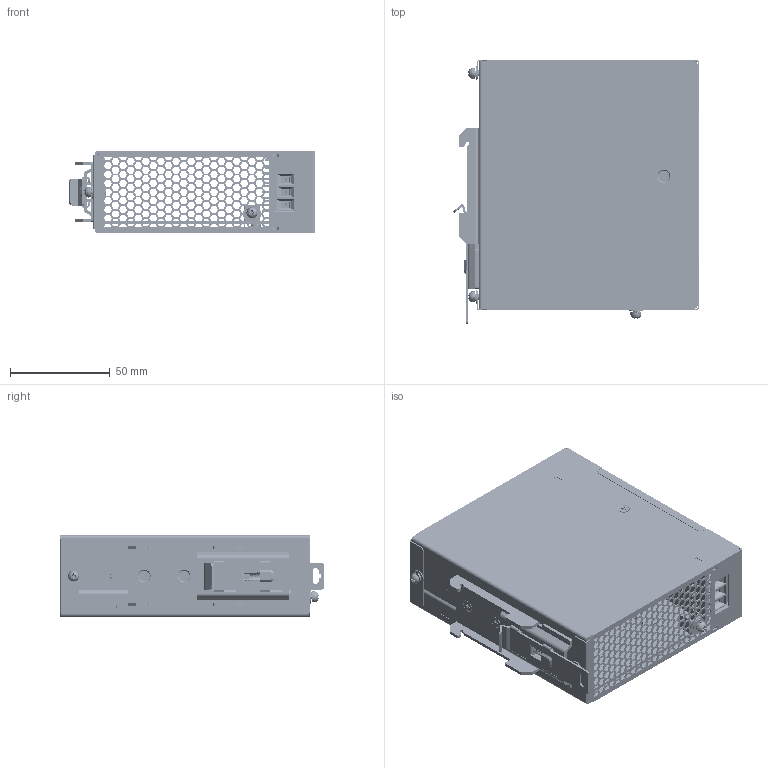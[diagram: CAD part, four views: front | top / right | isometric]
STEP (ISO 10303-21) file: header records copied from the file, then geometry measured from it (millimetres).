
FILE_DESCRIPTION( ('This file contains a STEP AP42 implementation' ,'as created by ZW3D STEP Interface translator.') ,'2;1' );
FILE_NAME( 'GW-DR240S.stp' ,'24 7 9.17 8 4', (''), ('ZWCAD Software Co.'), 'Version 1.0', 'ZW3D to STEP translator', '' );
FILE_SCHEMA(('AUTOMOTIVE_DESIGN { 1 0 10303 214 1 1 1 1 }'));
Length unit declared in the file: millimetre
Products named in the file (43): 0; 240W; CASE-B-01; CASE-B; SCREW_5_1_1; CASE-T; 縐諶; 錨璃001; 錨璃002; 粟銅; CASE-B-2; TEN; TAM11-M3-L6; TAM11-M3-L6-003; TAM11-M3-L6-002; TAM11-M3-L6-001; TAM11-M3-L61; TAM11-M3-L62; TAP02-M3-L6; ema_5-xx-6_35-00_asm; 221400003; ASM0001_ASM; 550100061; 330400045; ASM0001_ASM1; ASM0001_ASM2; 660300111; ema_5-04-6_35-00_asm; ASM0001_ASM3; ASM0001_ASM4; ASM0001_ASM5; ASM0001_ASM6; 3362W001XXX0A; LED.PRT; HX0322810000G; IN 107x122x0.25 S BN-FP BN(240W); IN 107x122x0.25 S BN-FP BN(階); GW-DR240S-24-ACV0120240521002; Board_5; Open CASCADE STEP translator 7.5 4.1.1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
Assembly tree (70 placements, depth 4):
  0
  240W
    CASE-B-01
      CASE-B
      SCREW_5_1_1
    CASE-T
    縐諶
      錨璃001
      錨璃002
      粟銅
    CASE-B-2
    TEN  x2
    TAM11-M3-L6
      TAM11-M3-L6-003
      TAM11-M3-L6-002
      TAM11-M3-L6-001
    TAM11-M3-L61
      TAM11-M3-L6-003
      TAM11-M3-L6-002
      TAM11-M3-L6-001
    TAM11-M3-L62
      TAM11-M3-L6-003
      TAM11-M3-L6-002
      TAM11-M3-L6-001
    TAP02-M3-L6  x3
    ema_5-xx-6_35-00_asm
      221400003
      ASM0001_ASM
        550100061
        330400045
      ASM0001_ASM1
        550100061
        330400045
      ASM0001_ASM2
        550100061
        330400045
      660300111  x3
    ema_5-04-6_35-00_asm
      221400003  x2
      ASM0001_ASM3
        550100061
        330400045
      ASM0001_ASM4
        550100061
        330400045
      ASM0001_ASM5
        550100061
        330400045
      660300111  x4
      ASM0001_ASM6
        550100061
        330400045
    3362W001XXX0A
    LED.PRT
    HX0322810000G
    IN 107x122x0.25 S BN-FP BN(240W)
    IN 107x122x0.25 S BN-FP BN(階)
    GW-DR240S-24-ACV0120240521002
      Board_5
        Open CASCADE STEP translator 7.5 4.1.1
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Bounding box: 123.44 x 132.2 x 41.06 mm (x, y, z)
Volume: 105086.4 mm3; surface area: 209389.5 mm2
Topology: 56 solids, 58 shells, 6812 faces, 18946 edges, 12322 vertices
Faces by surface type: plane 5017, cylinder 1048, bspline 472, cone 201, torus 72, sphere 2
Full cylindrical faces by diameter (mm): 0.4 x6, 0.5 x8, 0.6 x2, 0.7 x7, 0.762 x1, 0.8 x3, 0.85 x4, 0.9 x2, 0.95 x12, 1 x40, 1.1 x5, 1.15 x3, 1.2 x26, 1.23 x1, 1.3 x8, 1.4 x4, 1.6 x2, 2 x2, 2.387 x3, 2.4 x3, 2.5 x6, 2.78 x3, 3 x7, 3.2 x2, 3.3 x2, 3.4 x2, 3.5 x7, 3.6 x1, 4 x1, 4.5 x1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
Entity records: 284885 total; most frequent: CARTESIAN_POINT 149778, ORIENTED_EDGE 27564, DIRECTION 24833, EDGE_CURVE 13782, VECTOR 11887, LINE 11887, VERTEX_POINT 9035, AXIS2_PLACEMENT_3D 6473
